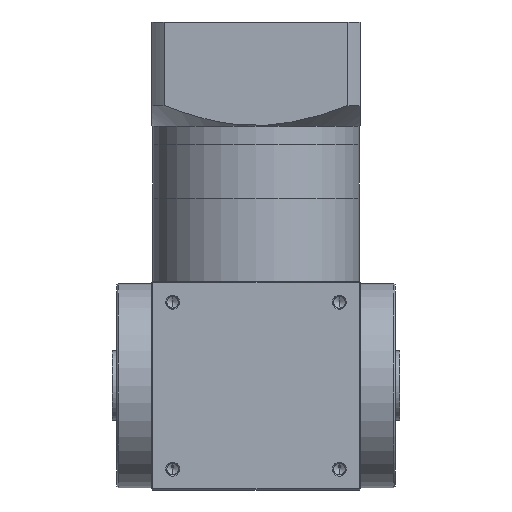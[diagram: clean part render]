
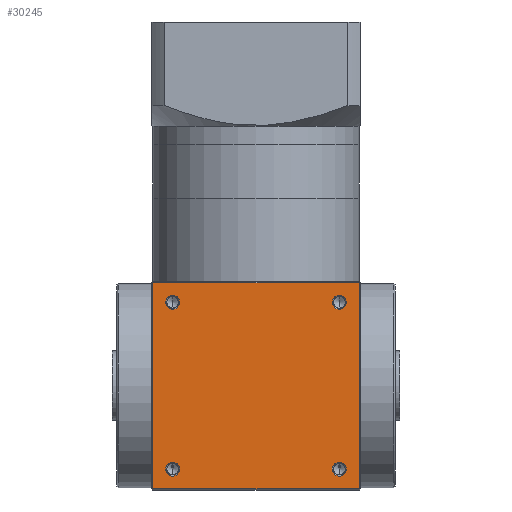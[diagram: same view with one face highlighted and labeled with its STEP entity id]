
A CAD part, front view. The second image highlights one B-rep face of the part: STEP entity #30245.
In plain terms, the highlighted planar face has unit normal (0, -1, 0).
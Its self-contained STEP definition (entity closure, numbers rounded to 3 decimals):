
#1090 = CIRCLE ( 'NONE', #15672, 3.025 ) ;
#1360 = CARTESIAN_POINT ( 'NONE',  ( 36., -45., 5.975 ) ) ;
#1376 = ORIENTED_EDGE ( 'NONE', *, *, #22968, .F. ) ;
#1858 = CARTESIAN_POINT ( 'NONE',  ( 44.5, -45., 89.5 ) ) ;
#2475 = CARTESIAN_POINT ( 'NONE',  ( 36., -45., 12.025 ) ) ;
#2572 = EDGE_CURVE ( 'NONE', #25461, #27461, #1090, .T. ) ;
#2683 = DIRECTION ( 'NONE',  ( 0., 1., 0. ) ) ;
#3206 = DIRECTION ( 'NONE',  ( 0., -1., 0. ) ) ;
#3826 = LINE ( 'NONE', #33588, #19300 ) ;
#4865 = LINE ( 'NONE', #40866, #5234 ) ;
#5234 = VECTOR ( 'NONE', #44836, 1000. ) ;
#5298 = CARTESIAN_POINT ( 'NONE',  ( -44.5, -45., 89.5 ) ) ;
#6338 = CIRCLE ( 'NONE', #15548, 3.025 ) ;
#6991 = ORIENTED_EDGE ( 'NONE', *, *, #12213, .F. ) ;
#7126 = ORIENTED_EDGE ( 'NONE', *, *, #13754, .F. ) ;
#7307 = ORIENTED_EDGE ( 'NONE', *, *, #8641, .F. ) ;
#7802 = CARTESIAN_POINT ( 'NONE',  ( -36., -45., 9. ) ) ;
#8089 = CIRCLE ( 'NONE', #51772, 3.025 ) ;
#8578 = VERTEX_POINT ( 'NONE', #29341 ) ;
#8641 = EDGE_CURVE ( 'NONE', #28846, #8578, #43365, .T. ) ;
#9245 = ORIENTED_EDGE ( 'NONE', *, *, #24898, .F. ) ;
#9757 = LINE ( 'NONE', #19767, #9811 ) ;
#9811 = VECTOR ( 'NONE', #27957, 1000. ) ;
#11948 = DIRECTION ( 'NONE',  ( 0., 0., -1. ) ) ;
#12213 = EDGE_CURVE ( 'NONE', #36229, #27803, #48818, .T. ) ;
#12760 = VERTEX_POINT ( 'NONE', #1858 ) ;
#13374 = EDGE_CURVE ( 'NONE', #27803, #36229, #25738, .T. ) ;
#13740 = DIRECTION ( 'NONE',  ( 0., 0., -1. ) ) ;
#13754 = EDGE_CURVE ( 'NONE', #23059, #12760, #3826, .T. ) ;
#13791 = DIRECTION ( 'NONE',  ( 0., -1., 0. ) ) ;
#13858 = CARTESIAN_POINT ( 'NONE',  ( -36., -45., 9. ) ) ;
#14777 = CARTESIAN_POINT ( 'NONE',  ( 36., -45., 81. ) ) ;
#15261 = AXIS2_PLACEMENT_3D ( 'NONE', #15517, #15447, #15390 ) ;
#15390 = DIRECTION ( 'NONE',  ( 0., 0., -1. ) ) ;
#15447 = DIRECTION ( 'NONE',  ( 0., -1., 0. ) ) ;
#15517 = CARTESIAN_POINT ( 'NONE',  ( -36., -45., 81. ) ) ;
#15548 = AXIS2_PLACEMENT_3D ( 'NONE', #14777, #42889, #18922 ) ;
#15672 = AXIS2_PLACEMENT_3D ( 'NONE', #13858, #13791, #13740 ) ;
#17088 = CARTESIAN_POINT ( 'NONE',  ( -36., -45., 77.975 ) ) ;
#18922 = DIRECTION ( 'NONE',  ( 0., 0., -1. ) ) ;
#19300 = VECTOR ( 'NONE', #33647, 1000. ) ;
#19767 = CARTESIAN_POINT ( 'NONE',  ( -44.5, -45., 90. ) ) ;
#20015 = AXIS2_PLACEMENT_3D ( 'NONE', #27676, #3206, #31738 ) ;
#20500 = VECTOR ( 'NONE', #36146, 1000. ) ;
#20681 = LINE ( 'NONE', #28510, #20500 ) ;
#21262 = EDGE_CURVE ( 'NONE', #41714, #23059, #9757, .T. ) ;
#22968 = EDGE_CURVE ( 'NONE', #12760, #45524, #4865, .T. ) ;
#23030 = PLANE ( 'NONE',  #48741 ) ;
#23059 = VERTEX_POINT ( 'NONE', #5298 ) ;
#23166 = EDGE_CURVE ( 'NONE', #25803, #28726, #8089, .T. ) ;
#23706 = CARTESIAN_POINT ( 'NONE',  ( 36., -45., 9. ) ) ;
#24319 = ORIENTED_EDGE ( 'NONE', *, *, #23166, .F. ) ;
#24898 = EDGE_CURVE ( 'NONE', #27461, #25461, #32949, .T. ) ;
#24924 = EDGE_LOOP ( 'NONE', ( #31886, #1376, #7126, #35837 ) ) ;
#25411 = ORIENTED_EDGE ( 'NONE', *, *, #13374, .F. ) ;
#25461 = VERTEX_POINT ( 'NONE', #29724 ) ;
#25738 = CIRCLE ( 'NONE', #33952, 3.025 ) ;
#25803 = VERTEX_POINT ( 'NONE', #1360 ) ;
#27159 = CARTESIAN_POINT ( 'NONE',  ( -45., -45., 90. ) ) ;
#27461 = VERTEX_POINT ( 'NONE', #32194 ) ;
#27538 = DIRECTION ( 'NONE',  ( 0., 0., -1. ) ) ;
#27587 = DIRECTION ( 'NONE',  ( 0., -1., 0. ) ) ;
#27599 = CARTESIAN_POINT ( 'NONE',  ( 36., -45., 81. ) ) ;
#27676 = CARTESIAN_POINT ( 'NONE',  ( 36., -45., 9. ) ) ;
#27803 = VERTEX_POINT ( 'NONE', #49804 ) ;
#27814 = DIRECTION ( 'NONE',  ( 0., 0., -1. ) ) ;
#27957 = DIRECTION ( 'NONE',  ( 0., 0., 1. ) ) ;
#28510 = CARTESIAN_POINT ( 'NONE',  ( -45., -45., 0.5 ) ) ;
#28726 = VERTEX_POINT ( 'NONE', #2475 ) ;
#28846 = VERTEX_POINT ( 'NONE', #39978 ) ;
#29341 = CARTESIAN_POINT ( 'NONE',  ( 36., -45., 77.975 ) ) ;
#29470 = EDGE_CURVE ( 'NONE', #45524, #41714, #20681, .T. ) ;
#29724 = CARTESIAN_POINT ( 'NONE',  ( -36., -45., 12.025 ) ) ;
#30245 = ADVANCED_FACE ( 'NONE', ( #37552, #37601, #35850, #36993, #35839 ), #23030, .F. ) ;
#30955 = CARTESIAN_POINT ( 'NONE',  ( 44.5, -45., 0.5 ) ) ;
#31233 = DIRECTION ( 'NONE',  ( 0., 0., 1. ) ) ;
#31237 = CIRCLE ( 'NONE', #20015, 3.025 ) ;
#31738 = DIRECTION ( 'NONE',  ( 0., 0., -1. ) ) ;
#31865 = AXIS2_PLACEMENT_3D ( 'NONE', #27599, #27587, #27538 ) ;
#31886 = ORIENTED_EDGE ( 'NONE', *, *, #29470, .F. ) ;
#32194 = CARTESIAN_POINT ( 'NONE',  ( -36., -45., 5.975 ) ) ;
#32336 = EDGE_CURVE ( 'NONE', #8578, #28846, #6338, .T. ) ;
#32949 = CIRCLE ( 'NONE', #38120, 3.025 ) ;
#33588 = CARTESIAN_POINT ( 'NONE',  ( -45., -45., 89.5 ) ) ;
#33647 = DIRECTION ( 'NONE',  ( 1., 0., 0. ) ) ;
#33952 = AXIS2_PLACEMENT_3D ( 'NONE', #42255, #42246, #42187 ) ;
#34393 = ORIENTED_EDGE ( 'NONE', *, *, #32336, .F. ) ;
#35837 = ORIENTED_EDGE ( 'NONE', *, *, #21262, .F. ) ;
#35839 = FACE_OUTER_BOUND ( 'NONE', #24924, .T. ) ;
#35850 = FACE_BOUND ( 'NONE', #49357, .T. ) ;
#36146 = DIRECTION ( 'NONE',  ( -1., 0., 0. ) ) ;
#36213 = DIRECTION ( 'NONE',  ( 0., -1., 0. ) ) ;
#36229 = VERTEX_POINT ( 'NONE', #17088 ) ;
#36993 = FACE_BOUND ( 'NONE', #45569, .T. ) ;
#37293 = EDGE_LOOP ( 'NONE', ( #6991, #25411 ) ) ;
#37358 = ORIENTED_EDGE ( 'NONE', *, *, #42801, .F. ) ;
#37552 = FACE_BOUND ( 'NONE', #43955, .T. ) ;
#37601 = FACE_BOUND ( 'NONE', #37293, .T. ) ;
#38120 = AXIS2_PLACEMENT_3D ( 'NONE', #7802, #36213, #11948 ) ;
#38903 = ORIENTED_EDGE ( 'NONE', *, *, #2572, .F. ) ;
#39978 = CARTESIAN_POINT ( 'NONE',  ( 36., -45., 84.025 ) ) ;
#40866 = CARTESIAN_POINT ( 'NONE',  ( 44.5, -45., 90. ) ) ;
#41714 = VERTEX_POINT ( 'NONE', #51997 ) ;
#42187 = DIRECTION ( 'NONE',  ( 0., 0., -1. ) ) ;
#42246 = DIRECTION ( 'NONE',  ( 0., -1., 0. ) ) ;
#42255 = CARTESIAN_POINT ( 'NONE',  ( -36., -45., 81. ) ) ;
#42801 = EDGE_CURVE ( 'NONE', #28726, #25803, #31237, .T. ) ;
#42889 = DIRECTION ( 'NONE',  ( 0., -1., 0. ) ) ;
#43365 = CIRCLE ( 'NONE', #31865, 3.025 ) ;
#43955 = EDGE_LOOP ( 'NONE', ( #34393, #7307 ) ) ;
#44836 = DIRECTION ( 'NONE',  ( 0., 0., -1. ) ) ;
#45524 = VERTEX_POINT ( 'NONE', #30955 ) ;
#45569 = EDGE_LOOP ( 'NONE', ( #9245, #38903 ) ) ;
#48741 = AXIS2_PLACEMENT_3D ( 'NONE', #27159, #2683, #31233 ) ;
#48818 = CIRCLE ( 'NONE', #15261, 3.025 ) ;
#49357 = EDGE_LOOP ( 'NONE', ( #24319, #37358 ) ) ;
#49804 = CARTESIAN_POINT ( 'NONE',  ( -36., -45., 84.025 ) ) ;
#51364 = DIRECTION ( 'NONE',  ( 0., -1., 0. ) ) ;
#51772 = AXIS2_PLACEMENT_3D ( 'NONE', #23706, #51364, #27814 ) ;
#51997 = CARTESIAN_POINT ( 'NONE',  ( -44.5, -45., 0.5 ) ) ;
